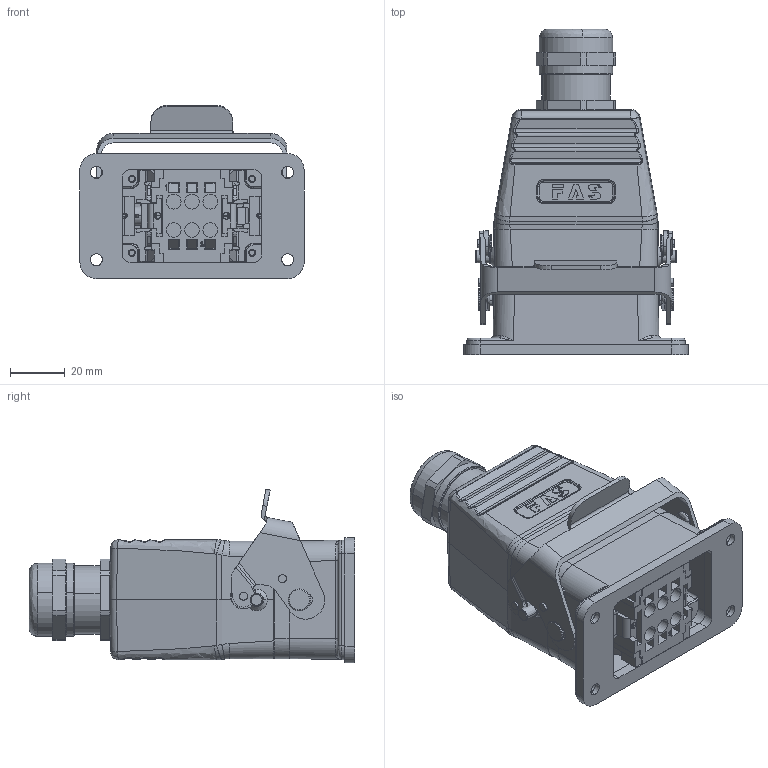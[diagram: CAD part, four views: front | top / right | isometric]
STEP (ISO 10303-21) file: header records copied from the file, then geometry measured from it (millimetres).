
FILE_DESCRIPTION (( 'STEP AP214' ), '1' );
FILE_NAME ('09106102120P HESH、6针、开孔底座、顶出20套件+塑料接头.STEP', '2024-04-26T01:51:39', ( 'L' ), ( '' ), 'SwSTEP 2.0', 'SolidWorks 2019', '' );
FILE_SCHEMA (( 'AUTOMOTIVE_DESIGN' ));
Length unit declared in the file: millimetre
Products named in the file (15): maoding.STEP; HESH-006-F.stp; HESH-006-M.stp; FAS-20-P.step; 6bdankou.STEP; h6bmifengdian.STEP; kahuan.STEP; H6B-TG-M20.step; H6B-AG.STEP; 09106102120P  HESH、6针、开孔底座、顶出20套件+塑料接头; tanhuang.STEP; asm0002.STEP; prt0001.STEP; m00607-1.STEP; maoding1.STEP
Assembly tree (20 placements, depth 4):
  09106102120P  HESH、6针、开孔底座、顶出20套件+塑料接头
    H6B-AG.STEP
      asm0002.STEP
        6bdankou.STEP
        kahuan.STEP  x2
        maoding1.STEP  x4
        tanhuang.STEP  x2
        maoding.STEP  x2
      m00607-1.STEP
      h6bmifengdian.STEP
      prt0001.STEP
    H6B-TG-M20.step
    FAS-20-P.step
    HESH-006-F.stp
    HESH-006-M.stp
Bounding box: 82 x 119.15 x 63.39 mm (x, y, z)
Volume: 148781.3 mm3; surface area: 86669.4 mm2
Topology: 17 solids, 18 shells, 3056 faces, 8010 edges, 5088 vertices
Faces by surface type: plane 1469, cylinder 738, bspline 478, cone 293, torus 50, sphere 28
Entity records: 115962 total; most frequent: CARTESIAN_POINT 37033, ORIENTED_EDGE 15448, DIRECTION 13005, EDGE_CURVE 7740, VERTEX_POINT 4961, LINE 4477, VECTOR 4477, AXIS2_PLACEMENT_3D 4264
